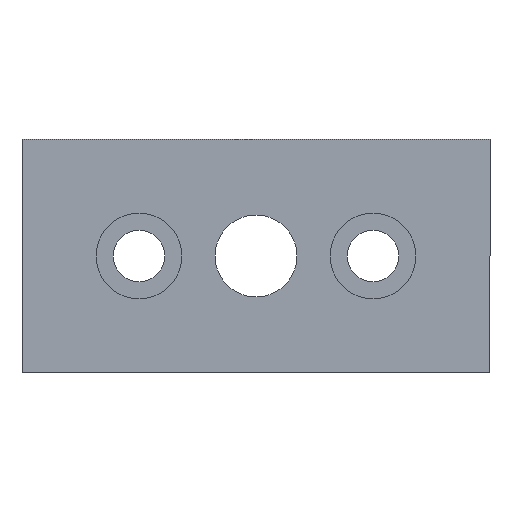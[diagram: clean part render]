
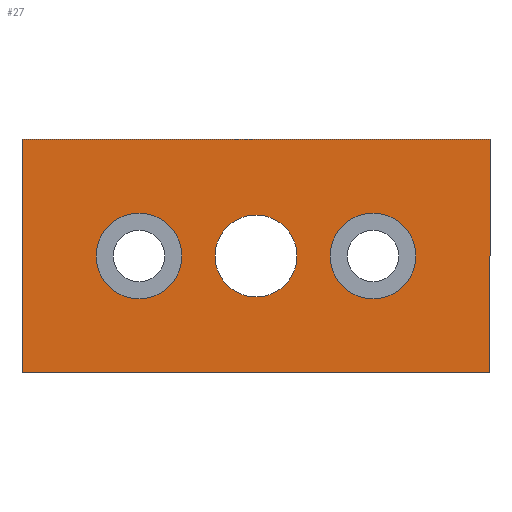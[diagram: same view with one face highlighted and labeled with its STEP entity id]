
A CAD part, front view. The second image highlights one B-rep face of the part: STEP entity #27.
In plain terms, the highlighted planar face has unit normal (0, -1, 0).
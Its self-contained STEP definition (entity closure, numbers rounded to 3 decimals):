
#3 = EDGE_LOOP ( 'NONE', ( #105, #251 ) ) ;
#4 = VERTEX_POINT ( 'NONE', #140 ) ;
#8 = VECTOR ( 'NONE', #521, 1000. ) ;
#11 = VERTEX_POINT ( 'NONE', #567 ) ;
#17 = VERTEX_POINT ( 'NONE', #414 ) ;
#18 = EDGE_LOOP ( 'NONE', ( #219, #22, #284, #35 ) ) ;
#20 = DIRECTION ( 'NONE',  ( 1., 0., 0. ) ) ;
#22 = ORIENTED_EDGE ( 'NONE', *, *, #477, .F. ) ;
#27 = ADVANCED_FACE ( 'NONE', ( #101, #232, #364, #215 ), #269, .T. ) ;
#33 = VERTEX_POINT ( 'NONE', #301 ) ;
#35 = ORIENTED_EDGE ( 'NONE', *, *, #262, .F. ) ;
#36 = DIRECTION ( 'NONE',  ( 0., 0., -1. ) ) ;
#41 = DIRECTION ( 'NONE',  ( 0., 1., 0. ) ) ;
#43 = VERTEX_POINT ( 'NONE', #365 ) ;
#49 = EDGE_CURVE ( 'NONE', #473, #208, #609, .T. ) ;
#59 = CIRCLE ( 'NONE', #201, 5.25 ) ;
#65 = DIRECTION ( 'NONE',  ( 0., 1., 0. ) ) ;
#70 = CARTESIAN_POINT ( 'NONE',  ( 15., 0., 5.5 ) ) ;
#71 = CIRCLE ( 'NONE', #211, 5.5 ) ;
#101 = FACE_BOUND ( 'NONE', #388, .T. ) ;
#105 = ORIENTED_EDGE ( 'NONE', *, *, #511, .T. ) ;
#106 = CARTESIAN_POINT ( 'NONE',  ( 15., 0., -5.5 ) ) ;
#121 = VERTEX_POINT ( 'NONE', #152 ) ;
#125 = VERTEX_POINT ( 'NONE', #322 ) ;
#137 = EDGE_LOOP ( 'NONE', ( #305, #282 ) ) ;
#140 = CARTESIAN_POINT ( 'NONE',  ( -30., 0., -15. ) ) ;
#152 = CARTESIAN_POINT ( 'NONE',  ( 30., 0., -15. ) ) ;
#162 = DIRECTION ( 'NONE',  ( 0., 0., -1. ) ) ;
#177 = CARTESIAN_POINT ( 'NONE',  ( 15., 0., 0. ) ) ;
#201 = AXIS2_PLACEMENT_3D ( 'NONE', #325, #41, #370 ) ;
#203 = CARTESIAN_POINT ( 'NONE',  ( -15., 0., 0. ) ) ;
#208 = VERTEX_POINT ( 'NONE', #106 ) ;
#209 = AXIS2_PLACEMENT_3D ( 'NONE', #218, #561, #273 ) ;
#211 = AXIS2_PLACEMENT_3D ( 'NONE', #177, #515, #223 ) ;
#215 = FACE_OUTER_BOUND ( 'NONE', #18, .T. ) ;
#218 = CARTESIAN_POINT ( 'NONE',  ( -15., 0., 0. ) ) ;
#219 = ORIENTED_EDGE ( 'NONE', *, *, #278, .F. ) ;
#223 = DIRECTION ( 'NONE',  ( 0., 0., -1. ) ) ;
#230 = LINE ( 'NONE', #497, #360 ) ;
#232 = FACE_BOUND ( 'NONE', #137, .T. ) ;
#237 = VERTEX_POINT ( 'NONE', #547 ) ;
#251 = ORIENTED_EDGE ( 'NONE', *, *, #330, .T. ) ;
#257 = DIRECTION ( 'NONE',  ( 0., 0., -1. ) ) ;
#262 = EDGE_CURVE ( 'NONE', #237, #121, #230, .T. ) ;
#269 = PLANE ( 'NONE',  #437 ) ;
#272 = LINE ( 'NONE', #577, #8 ) ;
#273 = DIRECTION ( 'NONE',  ( 0., 0., -1. ) ) ;
#274 = DIRECTION ( 'NONE',  ( 0., -1., 0. ) ) ;
#278 = EDGE_CURVE ( 'NONE', #43, #237, #453, .T. ) ;
#282 = ORIENTED_EDGE ( 'NONE', *, *, #49, .F. ) ;
#284 = ORIENTED_EDGE ( 'NONE', *, *, #586, .F. ) ;
#300 = EDGE_CURVE ( 'NONE', #125, #17, #560, .T. ) ;
#301 = CARTESIAN_POINT ( 'NONE',  ( 0., 0., 5.25 ) ) ;
#305 = ORIENTED_EDGE ( 'NONE', *, *, #505, .F. ) ;
#318 = DIRECTION ( 'NONE',  ( 0., -1., 0. ) ) ;
#322 = CARTESIAN_POINT ( 'NONE',  ( -15., 0., 5.5 ) ) ;
#325 = CARTESIAN_POINT ( 'NONE',  ( 0., 0., 0. ) ) ;
#330 = EDGE_CURVE ( 'NONE', #11, #33, #424, .T. ) ;
#331 = CIRCLE ( 'NONE', #209, 5.5 ) ;
#333 = AXIS2_PLACEMENT_3D ( 'NONE', #351, #65, #396 ) ;
#351 = CARTESIAN_POINT ( 'NONE',  ( 0., 0., 0. ) ) ;
#360 = VECTOR ( 'NONE', #162, 1000. ) ;
#362 = DIRECTION ( 'NONE',  ( 0., 0., 1. ) ) ;
#364 = FACE_BOUND ( 'NONE', #3, .T. ) ;
#365 = CARTESIAN_POINT ( 'NONE',  ( -30., 0., 15. ) ) ;
#367 = AXIS2_PLACEMENT_3D ( 'NONE', #203, #546, #257 ) ;
#370 = DIRECTION ( 'NONE',  ( 0., 0., 1. ) ) ;
#388 = EDGE_LOOP ( 'NONE', ( #423, #402 ) ) ;
#391 = CARTESIAN_POINT ( 'NONE',  ( -30., 0., 15. ) ) ;
#396 = DIRECTION ( 'NONE',  ( 0., 0., 1. ) ) ;
#402 = ORIENTED_EDGE ( 'NONE', *, *, #300, .F. ) ;
#409 = AXIS2_PLACEMENT_3D ( 'NONE', #564, #274, #608 ) ;
#414 = CARTESIAN_POINT ( 'NONE',  ( -15., 0., -5.5 ) ) ;
#417 = VECTOR ( 'NONE', #362, 1000. ) ;
#423 = ORIENTED_EDGE ( 'NONE', *, *, #495, .F. ) ;
#424 = CIRCLE ( 'NONE', #333, 5.25 ) ;
#437 = AXIS2_PLACEMENT_3D ( 'NONE', #600, #318, #36 ) ;
#449 = CARTESIAN_POINT ( 'NONE',  ( -30., 0., -15. ) ) ;
#453 = LINE ( 'NONE', #391, #573 ) ;
#473 = VERTEX_POINT ( 'NONE', #70 ) ;
#477 = EDGE_CURVE ( 'NONE', #4, #43, #553, .T. ) ;
#495 = EDGE_CURVE ( 'NONE', #17, #125, #331, .T. ) ;
#497 = CARTESIAN_POINT ( 'NONE',  ( 30., 0., -15. ) ) ;
#505 = EDGE_CURVE ( 'NONE', #208, #473, #71, .T. ) ;
#511 = EDGE_CURVE ( 'NONE', #33, #11, #59, .T. ) ;
#515 = DIRECTION ( 'NONE',  ( 0., -1., 0. ) ) ;
#521 = DIRECTION ( 'NONE',  ( -1., 0., 0. ) ) ;
#546 = DIRECTION ( 'NONE',  ( 0., -1., 0. ) ) ;
#547 = CARTESIAN_POINT ( 'NONE',  ( 30., 0., 15. ) ) ;
#553 = LINE ( 'NONE', #449, #417 ) ;
#560 = CIRCLE ( 'NONE', #367, 5.5 ) ;
#561 = DIRECTION ( 'NONE',  ( 0., -1., 0. ) ) ;
#564 = CARTESIAN_POINT ( 'NONE',  ( 15., 0., 0. ) ) ;
#567 = CARTESIAN_POINT ( 'NONE',  ( 0., 0., -5.25 ) ) ;
#573 = VECTOR ( 'NONE', #20, 1000. ) ;
#577 = CARTESIAN_POINT ( 'NONE',  ( -30., 0., -15. ) ) ;
#586 = EDGE_CURVE ( 'NONE', #121, #4, #272, .T. ) ;
#600 = CARTESIAN_POINT ( 'NONE',  ( 30., 0., 15. ) ) ;
#608 = DIRECTION ( 'NONE',  ( 0., 0., -1. ) ) ;
#609 = CIRCLE ( 'NONE', #409, 5.5 ) ;
